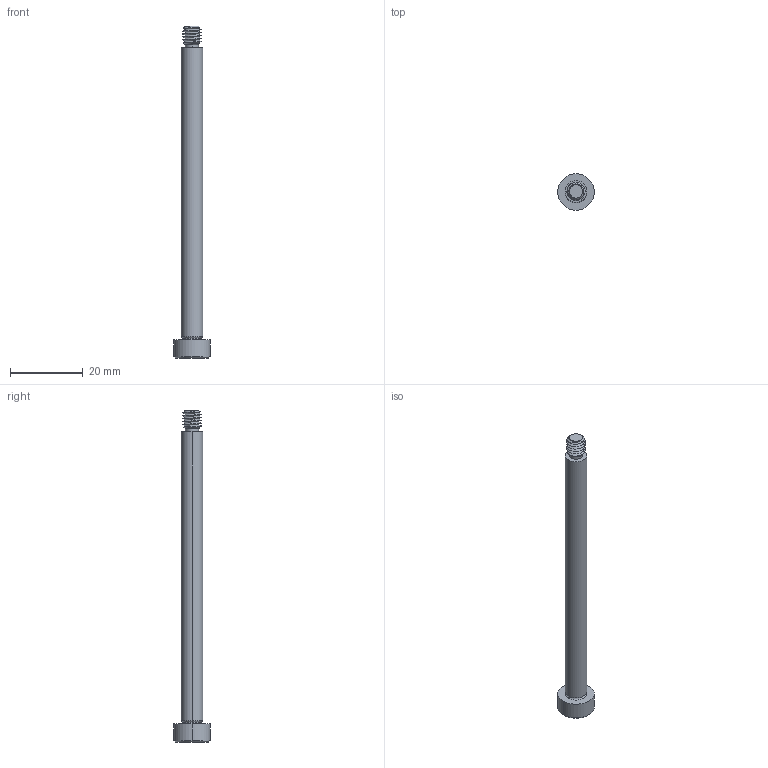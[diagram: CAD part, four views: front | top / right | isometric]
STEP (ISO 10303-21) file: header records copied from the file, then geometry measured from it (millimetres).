
FILE_DESCRIPTION (( 'STEP AP203' ), '1' );
FILE_NAME ('P0130.060-080-B2.step', '2021-11-09T21:31:10', ( '' ), ( '' ), 'SwSTEP 2.0', 'SolidWorks 2019', '' );
FILE_SCHEMA (( 'CONFIG_CONTROL_DESIGN' ));
Length unit declared in the file: millimetre
Products named in the file (1): P0130.060-080-B2
Bounding box: 10 x 10 x 91 mm (x, y, z)
Volume: 2707.8 mm3; surface area: 1995.5 mm2
Topology: 1 solids, 1 shells, 53 faces, 121 edges, 71 vertices
Faces by surface type: cylinder 17, plane 16, cone 14, torus 4, bspline 2
Entity records: 2367 total; most frequent: CARTESIAN_POINT 1186, ORIENTED_EDGE 238, DIRECTION 226, EDGE_CURVE 119, AXIS2_PLACEMENT_3D 92, VERTEX_POINT 71, EDGE_LOOP 56, ADVANCED_FACE 53
